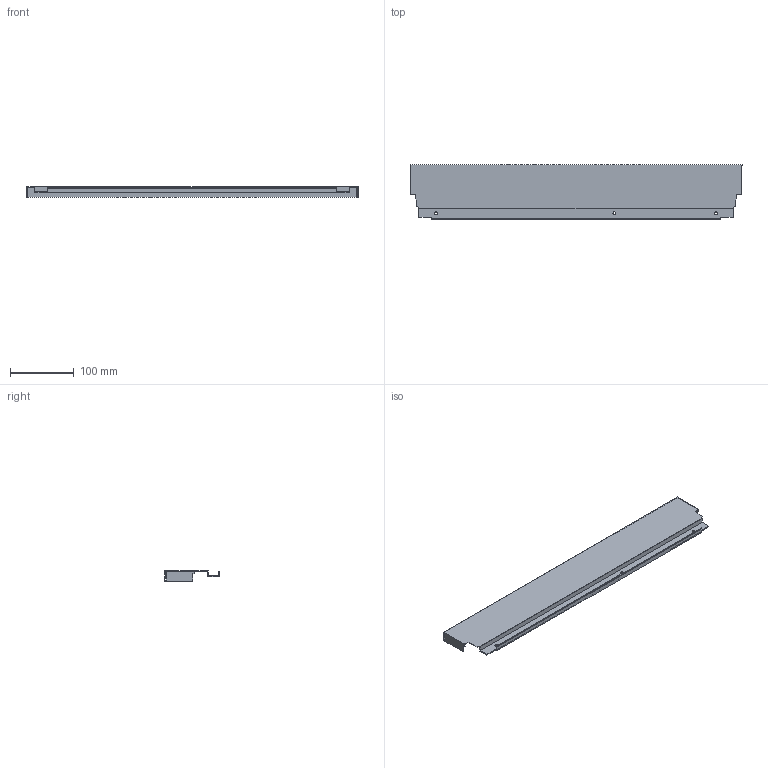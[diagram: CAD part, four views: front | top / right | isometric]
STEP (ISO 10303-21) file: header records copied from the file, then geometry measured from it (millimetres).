
FILE_DESCRIPTION (( 'STEP AP214' ), '1' );
FILE_NAME ('_DWD_XP Stahlrückwand_H86_KAB600_S16.step', '2010-07-08T12:09:56', ( 'grass' ), ( '' ), 'SwSTEP 2.0', 'SolidWorks 2010', '' );
FILE_SCHEMA (( 'AUTOMOTIVE_DESIGN' ));
Length unit declared in the file: millimetre
Products named in the file (1): _DWD_XP Stahlrückwand_H86_KAB600_S16
Bounding box: 519 x 85.79 x 16 mm (x, y, z)
Volume: 55241.4 mm3; surface area: 120437.5 mm2
Topology: 1 solids, 1 shells, 50 faces, 144 edges, 96 vertices
Faces by surface type: plane 44, cylinder 6
Entity records: 1666 total; most frequent: CARTESIAN_POINT 291, ORIENTED_EDGE 288, DIRECTION 258, EDGE_CURVE 144, VECTOR 132, LINE 132, VERTEX_POINT 96, AXIS2_PLACEMENT_3D 63
